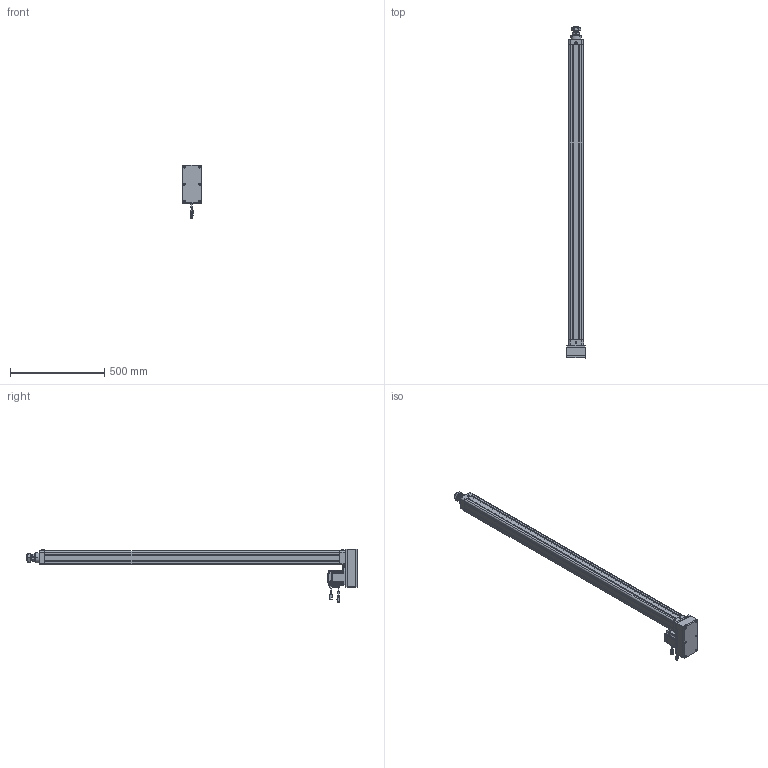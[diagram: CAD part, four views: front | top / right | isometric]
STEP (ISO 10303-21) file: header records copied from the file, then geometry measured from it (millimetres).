
FILE_DESCRIPTION((''),'2;1');
FILE_NAME('ASM0001_ASM','2020-04-02T',('ASUS20200'),(''),'CREO PARAMETRIC BY PTC INC, 2014190','CREO PARAMETRIC BY PTC INC, 2014190','');
FILE_SCHEMA(('CONFIG_CONTROL_DESIGN'));
Length unit declared in the file: millimetre
Products named in the file (29): HE63-D-P-001-X1; HE63-D-P-002-X1; HE63-D-P-003-X1; LGLM-M8-22; SLM-01; YZ-M6X1; JDB405030; HE63-P-010-X1-80N; _MHMF082L1A2; _CABLE_MOTOR_BOTTOM_05; _CABLE_MOTOR_TOP_05; _MOTOR_CONNECTOR_2; _CABLE_BRAKE_BOTTOM_05; _CABLE_BRAKE_TOP_05; _MHMF_CONNECTOR_9_PIN_A6; MHMF082L1A2M2_1_ASM; JX6X6X25; HE63-P-012-X1; HE63-P-013-X1; M6X60; JM-M8; LM-M8-15; LM-M8X1-25; HE63-D-P-005-X1; HE63-D-P-004-X1; HE63-D-P-008-X1; TD-6; M6X25; ASM0001_ASM
Assembly tree (46 placements, depth 3):
  ASM0001_ASM
    HE63-D-P-001-X1
    HE63-D-P-002-X1
    HE63-D-P-003-X1
    LGLM-M8-22  x8
    SLM-01
    YZ-M6X1
    JDB405030
    HE63-P-010-X1-80N
    MHMF082L1A2M2_1_ASM
      _MHMF082L1A2
      _CABLE_MOTOR_BOTTOM_05
      _CABLE_MOTOR_TOP_05
      _MOTOR_CONNECTOR_2
      _CABLE_BRAKE_BOTTOM_05
      _CABLE_BRAKE_TOP_05
      _MHMF_CONNECTOR_9_PIN_A6
    JX6X6X25
    HE63-P-012-X1
    HE63-P-013-X1
    M6X60  x6
    JM-M8
    LM-M8-15
    LM-M8X1-25
    HE63-D-P-005-X1
    HE63-D-P-004-X1
    HE63-D-P-008-X1
    TD-6  x4
    M6X25  x4
Bounding box: 100 x 1757 x 284.15 mm (x, y, z)
Volume: 4723423.4 mm3; surface area: 1454732.2 mm2
Topology: 45 solids, 75 shells, 2611 faces, 6333 edges, 3952 vertices
Faces by surface type: plane 1141, cylinder 742, cone 549, torus 134, sphere 42, bspline 3
Entity records: 65420 total; most frequent: CARTESIAN_POINT 12499, DIRECTION 11587, ORIENTED_EDGE 10386, EDGE_CURVE 5247, AXIS2_PLACEMENT_3D 4315, VERTEX_POINT 3299, VECTOR 2957, LINE 2957
